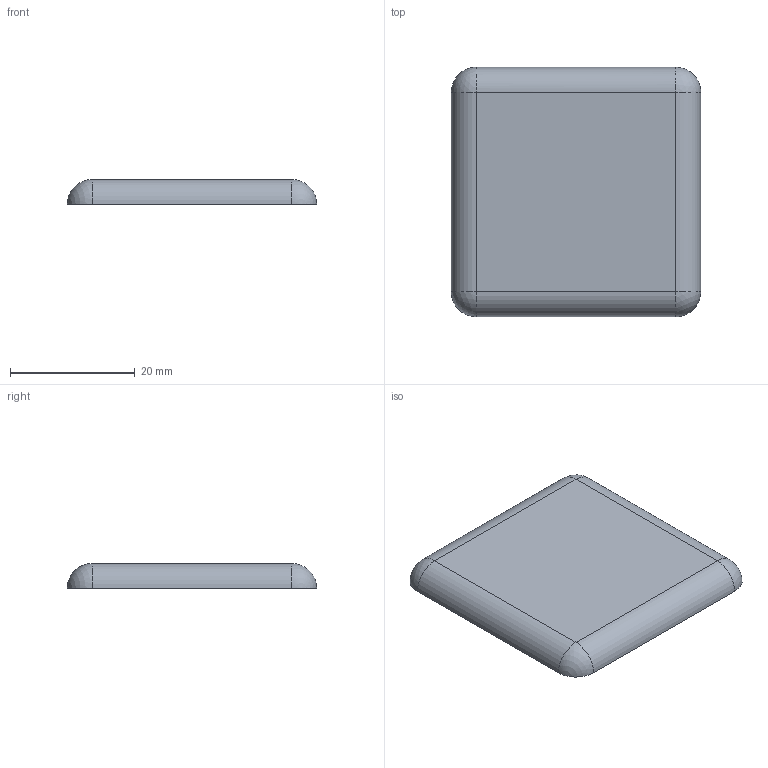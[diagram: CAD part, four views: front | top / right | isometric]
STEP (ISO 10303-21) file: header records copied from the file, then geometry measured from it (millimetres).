
FILE_DESCRIPTION (( 'STEP AP214' ), '1' );
FILE_NAME ('Transept Giltec-AK840X40.STEP', '2013-03-20T14:33:16', ( 'Windows User' ), ( '' ), 'SwSTEP 2.0', 'SolidWorks 2013', '' );
FILE_SCHEMA (( 'AUTOMOTIVE_DESIGN' ));
Length unit declared in the file: millimetre
Products named in the file (1): Transept Giltec-AK840X40
Bounding box: 40 x 40 x 4 mm (x, y, z)
Volume: 5838.5 mm3; surface area: 3515 mm2
Topology: 1 solids, 1 shells, 10 faces, 28 edges, 16 vertices
Faces by surface type: sphere 4, cylinder 4, plane 2
Entity records: 323 total; most frequent: CARTESIAN_POINT 74, DIRECTION 50, ORIENTED_EDGE 40, AXIS2_PLACEMENT_3D 21, EDGE_CURVE 20, VERTEX_POINT 12, ADVANCED_FACE 10, EDGE_LOOP 10
